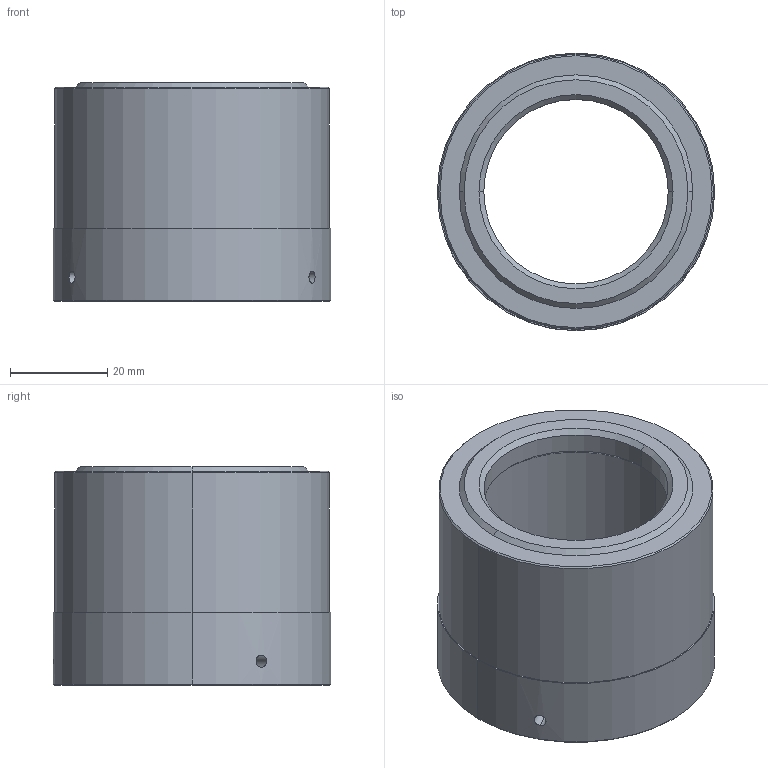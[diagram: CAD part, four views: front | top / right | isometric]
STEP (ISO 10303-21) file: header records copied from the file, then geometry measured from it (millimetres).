
FILE_DESCRIPTION (( 'STEP AP214' ), '1' );
FILE_NAME ('F80C-TUBE-SPACER C.STEP', '2026-02-27T02:15:01', ( '' ), ( '' ), 'SwSTEP 2.0', 'SolidWorks 2025', '' );
FILE_SCHEMA (( 'AUTOMOTIVE_DESIGN' ));
Length unit declared in the file: millimetre
Products named in the file (1): F80C-TUBE-SPACER C
Bounding box: 57 x 57 x 45 mm (x, y, z)
Volume: 40355.3 mm3; surface area: 17014.9 mm2
Topology: 1 solids, 1 shells, 29 faces, 64 edges, 40 vertices
Faces by surface type: cylinder 14, cone 10, plane 5
Entity records: 1045 total; most frequent: CARTESIAN_POINT 362, DIRECTION 140, ORIENTED_EDGE 128, EDGE_CURVE 64, AXIS2_PLACEMENT_3D 58, VERTEX_POINT 40, EDGE_LOOP 40, ADVANCED_FACE 29
